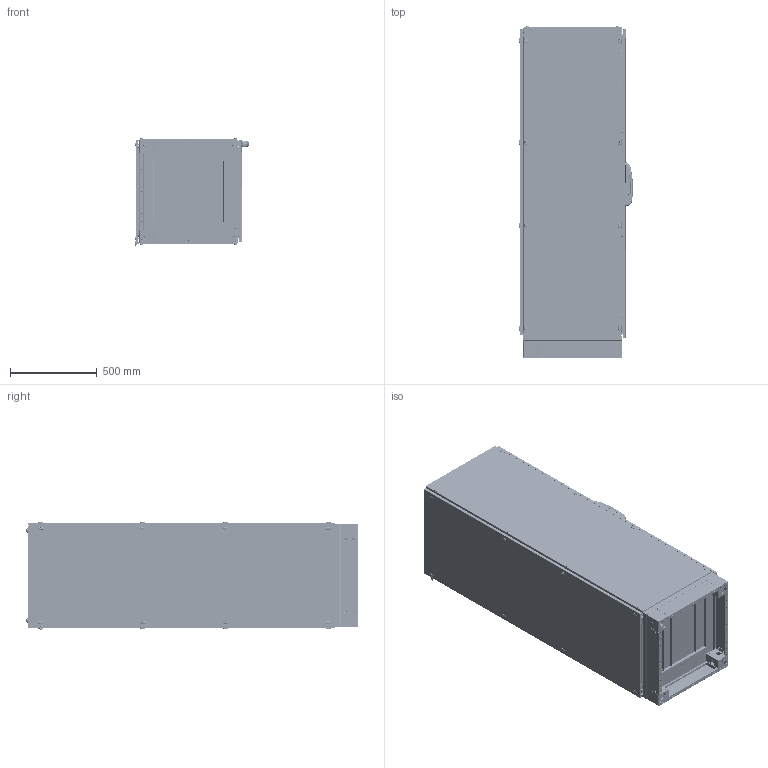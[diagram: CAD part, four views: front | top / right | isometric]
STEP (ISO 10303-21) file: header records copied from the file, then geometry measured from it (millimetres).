
FILE_DESCRIPTION (( 'STEP AP203' ), '1' );
FILE_NAME ('706.186 600x1800x600.STEP', '2020-04-04T15:14:22', ( '' ), ( '' ), 'SwSTEP 2.0', 'SolidWorks 2019', '' );
FILE_SCHEMA (( 'CONFIG_CONTROL_DESIGN' ));
Length unit declared in the file: millimetre
Products named in the file (125): L KOSE DESTEKorj1; socket button head cap screw_am_B18.3.4M - 12 x 1.75 x 30 SBHCS --N; PB 14.0004 M6 HAVÞA PLASTÝK CÝVATA; M6 HAVÞA PLASTÝK CÝVATA; 03-KOSE PUNT_PP 12.0027; BAZA SISTEMIV2-6 baza kapaðý201550x40; 03-TABAN SACI SURGU_PP 12.0030 - 600; kapali dikey profilkenetli_ita oluklu10-aaaaaaaaaaaa-1_1800; somu; TEOS V2 BAZA S嵞TEM廆600X600; percinli taban-vidalý kapak-kose pls yok_701.660-60X60 ALT; MP 11.0140 TEOS ALUMINYUM KOSE APPROVED 16.08.2010; Mirror03-KOSE PUNT; TEOS TEK KAPAK REVÝZE_600x1800; M8 KAFES SOMUN_m8; 706.186 600x1800x600; TEOS Kilit Üst Çubuk Montaj_1800H; MP 14.0007 M6 PLASTÝK HAVSA; Teos-Neo MP Sol Braket Montaj_Standart Pozisyon; BOYUNA DELIKLI PROFIL_1800; V2 -2011 DT BAZA KAPAGI ON_PP 12.0045 - 600; 03-KOSE PUNT; MP 11.0195 montaj plakasý m8takoz1VER3 NEO26-12; MP 18.7631 Modul; TEOS Kilit Alt Çubuk Montaj_1800H; TEOS Kilit Üst Çubuk_1800--MP 16.0130; mentese bakýr kapak 09-201; BAZA KÖÞES_SAG; MP 18.7631 204 handle REV04 tekpan logo; MP 14.0006 PVC SIZDIRMAZLIK CONTASI; on Kapi 10-2017 2 mm dkp_PP 17.1081 600x1800; M5 DÝKEY PROFÝL RONDELA; MP 18.7631 Gövde-Plastik; on citaVER3 teos26-12_600; Teos-Neo MP Durdurucu; Montaj PlakAsi aaaaa 3mm_PP 12.0097 600x1800; Ust Kapak 2009-10 gecme askili vidalý 1.5 akb rev_PP 12.0006 600X600; M6 KAFES SOMU2015; mp aLT DAYAMA_PP 12.0092 - 500; mentese orta 09-201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
Assembly tree (388 placements, depth 7):
  706.186 600x1800x600
    TEOS iskelet_600x1800x600
      kapali dikey profilkenetli_ita oluklu10-aaaaaaaaaaaa-1_1800  x4
      kapali dikey profilkenetli_ita oluklu10-aaaaaaaaaaaa-1_600  x8
      L KOSE DESTEKorj1  x8
      kose rondela kabartmaSIZ 10  x15
      kose rondela kabartmaSIZ 12
      MP 11.0140 TEOS ALUMINYUM KOSE APPROVED 16.08.2010  x8
      M5 DÝKEY PROFÝL RONDELA  x16
      percinli taban-vidalý kapak-kose pls yok_701.660-60X60 ALT
        03-taban genislik percinli 04 - 2012 100-120_PP 12.0019 - 600  x2
        03taban derinlik percinli_PP 12.0025 - 600  x2
        03-KOSE PUNT_PP 12.0027
        03-KOSE PUNT
        Mirror03-KOSE PUNT  x2
        TEOS V2 BAZA S嵞TEM廆600X600
          BAZA KÖÞES_SAG
            V2 BAZA KOSESI2015_100
            BAZA SISTEMIV2-6 baza kapaðý201550x40_TEKPAN LOGOLU
            M6 KAFES SOMU2015
              kafes somun kafes
              somu
            M6 KAFES SOMU2015
              kafes somun kafes
              somu
          V2 -2011 DT BAZA KAPAGI ON_PP 12.0045 - 600  x2
          BAZA KÖÞES_SOL
            V2 BAZA KOSESI2015_100
            BAZA SISTEMIV2-6 baza kapaðý201550x40
            M6 KAFES SOMU2015
              kafes somun kafes
              somu
            M6 KAFES SOMU2015
              kafes somun kafes
              somu
          BAZA KÖÞES_SAG
            V2 BAZA KOSESI2015_100
            BAZA SISTEMIV2-6 baza kapaðý201550x40_TEKPAN LOGOLU
            M6 KAFES SOMU2015
              kafes somun kafes
              somu
            M6 KAFES SOMU2015
              kafes somun kafes
              somu
          BAZA KÖÞES_SOL
            V2 BAZA KOSESI2015_100
            BAZA SISTEMIV2-6 baza kapaðý201550x40
            M6 KAFES SOMU2015
              kafes somun kafes
              somu
            M6 KAFES SOMU2015
              kafes somun kafes
              somu
          V3 -2011 DT BAZA KAPAGI yan_PP 12.0051 - 600  x2
          flat head screw_am_B18.6.7M - M6 x 1.0 x 20 Type I Cross Recessed FHMS --20N  x8
        03-TABAN SACI SURGU_PP 12.0030 - 600  x2
        03-TABAN SACI U1 04-2012_PP 12.0040 - 600-75
        03-TABAN SACI U1 04-2012_PP 12.0035 - 600-200
        mp aLT DAYAMA_PP 12.0093 - 600  x2
      yan arka kapak baglantý saci  x4
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Bounding box: 658.08 x 1917.1 x 623.59 mm (x, y, z)
Volume: 18663676.9 mm3; surface area: 19893894.4 mm2
Topology: 334 solids, 374 shells, 50648 faces, 137104 edges, 86901 vertices
Faces by surface type: plane 32250, cylinder 13465, bspline 2211, torus 1147, cone 966, sphere 609
Entity records: 681805 total; most frequent: CARTESIAN_POINT 290873, ORIENTED_EDGE 79476, DIRECTION 73025, EDGE_CURVE 39738, VECTOR 26367, LINE 26367, VERTEX_POINT 25424, AXIS2_PLACEMENT_3D 23329
